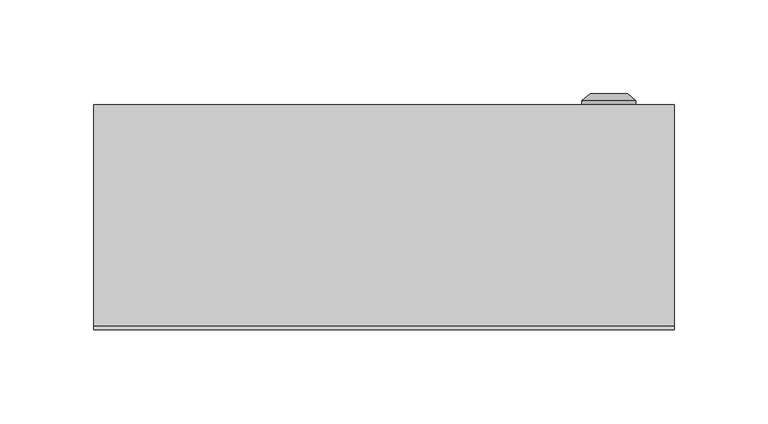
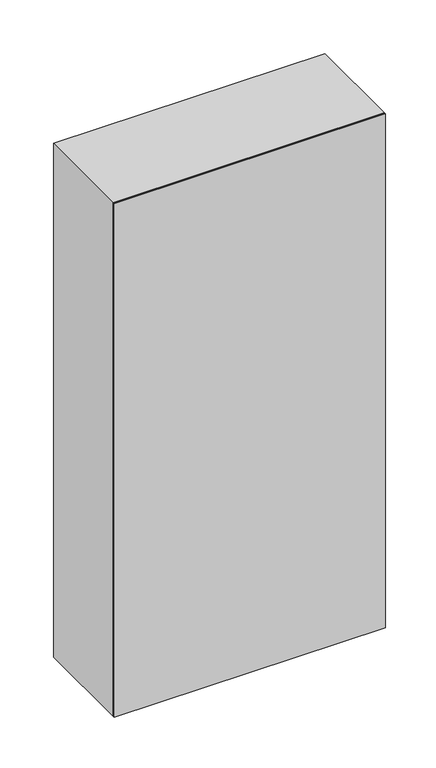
"""IFC4 building model written with IfcOpenShell, lengths in millimetres: proxy geometry, ЩРН_48 : ЩРН-48."""

from ifc_helpers import new_model, si_unit, frame, origin, origin_with_axes, place, context, project, spatial, polyline, circle_curve, outline, extrude, source, transform, mapped, element, save
from ifc_brep_helpers import plane_surface, cylinder_surface, revolved_surface, advanced_brep


def electrical_equipment_671bf40c(model_context):
    return source(origin(), model_context, "Body", "SolidModel", [
        advanced_brep(
        [(105.669873, 120.0, 305.0), (134.330127, 120.0, 305.0), (120.0, 120.0, 305.0), (105.669873, 122.366592, 305.0), (134.330127, 122.366592, 305.0), (110.0, 126.0, 305.0), (130.0, 126.0, 305.0), (118.1080471, 126.0, 305.0), (121.8919529, 126.0, 305.0), (118.1080471, 124.9822294, 305.0), (121.8919529, 124.9822294, 305.0), (120.0, 124.9822294, 305.0)],
        [
            (0, 1, circle_curve(frame((120.0, 120.0, 305.0), z_axis=(0.0, -1.0, 0.0), x_axis=(1.0, 0.0, 0.0)), 14.330127)),
            (1, 2),
            (2, 0),
            (1, 0, circle_curve(frame((120.0, 120.0, 305.0), z_axis=(0.0, -1.0, 0.0), x_axis=(1.0, 0.0, 0.0)), 14.330127)),
            (3, 4, circle_curve(frame((120.0, 122.366592, 305.0), z_axis=(0.0, -1.0, 0.0), x_axis=(1.0, 0.0, 0.0)), 14.330127)),
            (4, 1),
            (0, 3),
            (4, 3, circle_curve(frame((120.0, 122.366592, 305.0), z_axis=(0.0, -1.0, 0.0), x_axis=(1.0, 0.0, 0.0)), 14.330127)),
            (5, 6, circle_curve(frame((120.0, 126.0, 305.0), z_axis=(0.0, -1.0, 0.0), x_axis=(1.0, 0.0, 0.0)), 10.0)),
            (6, 4),
            (3, 5),
            (6, 5, circle_curve(frame((120.0, 126.0, 305.0), z_axis=(0.0, -1.0, 0.0), x_axis=(1.0, 0.0, 0.0)), 10.0)),
            (7, 8, circle_curve(frame((120.0, 126.0, 305.0), z_axis=(0.0, -1.0, 0.0), x_axis=(1.0, 0.0, 0.0)), 1.8919529)),
            (8, 6),
            (5, 7),
            (8, 7, circle_curve(frame((120.0, 126.0, 305.0), z_axis=(0.0, -1.0, 0.0), x_axis=(1.0, 0.0, 0.0)), 1.8919529)),
            (9, 10, circle_curve(frame((120.0, 124.9822294, 305.0), z_axis=(0.0, -1.0, 0.0), x_axis=(1.0, 0.0, 0.0)), 1.8919529)),
            (10, 8),
            (7, 9),
            (10, 9, circle_curve(frame((120.0, 124.9822294, 305.0), z_axis=(0.0, -1.0, 0.0), x_axis=(1.0, 0.0, 0.0)), 1.8919529)),
            (11, 10),
            (9, 11),
        ],
        [
            plane_surface(frame((120.0, 120.0, 305.0), z_axis=(0.0, -1.0, 0.0), x_axis=(1.0, 0.0, 0.0))),
            cylinder_surface(frame((120.0, 133.1348851, 305.0), z_axis=(0.0, 1.0, 0.0), x_axis=(1.0, 0.0, 0.0)), 14.330127),
            revolved_surface(polyline([(134.330127, 122.366592, 305.0), (130.0, 126.0, 305.0)]), (120.0, 133.1348851, 305.0), (0.0, 1.0, 0.0)),
            plane_surface(frame((120.0, 126.0, 305.0), z_axis=(0.0, 1.0, 0.0), x_axis=(1.0, 0.0, 0.0))),
            revolved_surface(polyline([(121.8919529, 126.0, 305.0), (121.8919529, 124.9822294, 305.0)]), (120.0, 133.1348851, 305.0), (0.0, 1.0, 0.0)),
            plane_surface(frame((120.0, 124.9822294, 305.0), z_axis=(0.0, 1.0, 0.0), x_axis=(1.0, 0.0, 0.0))),
        ],
        [
            (0, [[1, 2, 3]]),
            (0, [[4, -3, -2]]),
            (1, [[5, 6, -1, 7]]),
            (1, [[8, -7, -4, -6]]),
            (2, [[9, 10, -5, 11]]),
            (2, [[12, -11, -8, -10]]),
            (3, [[13, 14, -9, 15]]),
            (3, [[16, -15, -12, -14]]),
            (4, [[17, 18, -13, 19]]),
            (4, [[20, -19, -16, -18]]),
            (5, [[21, -17, 22]]),
            (5, [[-22, -20, -21]]),
        ],
    ),
        extrude(outline(polyline([(149.0, 95.0), (-149.0, 95.0), (-149.0, 120.0), (149.0, 120.0), (149.0, 95.0)])), frame((0.0, 0.0, 6.0), z_axis=(0.0, 0.0, 1.0), x_axis=(1.0, 0.0, 0.0)), (0.0, 0.0, 1.0), 608.0),
        extrude(outline(polyline([(620.0, -155.0033905), (0.0, -155.0033905), (0.0, 154.9966095), (620.0, 154.9966095), (620.0, -155.0033905)]), holes=[polyline([(615.0, -150.0), (615.0, 150.0), (5.0, 150.0), (5.0, -150.0), (615.0, -150.0)])]), frame((0.0, 2.0, 0.0), z_axis=(0.0, 1.0, 0.0), x_axis=(0.0, 0.0, 1.0)), (0.0, 0.0, 1.0), 118.0),
        extrude(outline(polyline([(155.0, 0.0), (-155.0, 0.0), (-155.0, 2.0), (155.0, 2.0), (155.0, 0.0)])), origin_with_axes(), (0.0, 0.0, 1.0), 620.0),
    ])


if __name__ == "__main__":
    model = new_model("IFC4")
    model_context = context("Model", 3, world=origin())
    ifc_project = project(units=[si_unit("LENGTHUNIT", "METRE", prefix="MILLI")], contexts=[model_context])
    site = spatial("IfcSite", under=ifc_project)
    building = spatial("IfcBuilding", under=site)
    placement = place(None, origin())
    electrical_equipment_shape = electrical_equipment_671bf40c(model_context)
    element("IfcBuildingElementProxy", 1, Name="ЩРН_48 : ЩРН-48", ObjectType="ЩРН_48 : ЩРН-48", at=placement, inside=building, context=model_context, shape_type="MappedRepresentation", body=[
        mapped(electrical_equipment_shape, transform((0.0, 0.0, 0.0), x_axis=(1.0, 0.0, 0.0), y_axis=(0.0, 1.0, 0.0), z_axis=(0.0, 0.0, 1.0))),
    ])
    save(model, "model.ifc")
